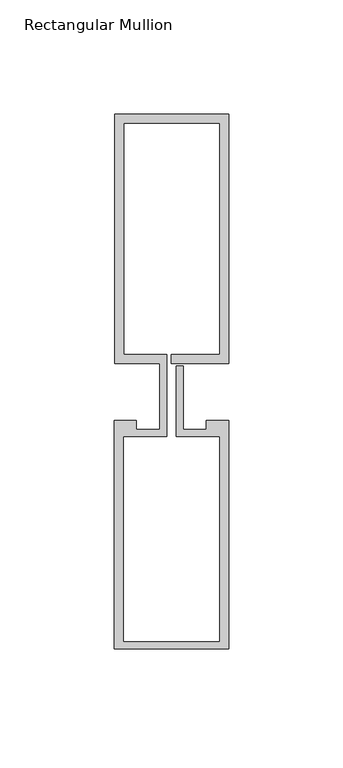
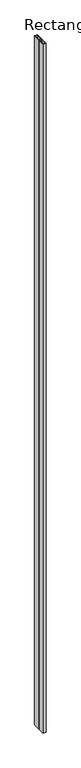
"""IFC4 building model written with IfcOpenShell, lengths in millimetres: member geometry, Rectangular Mullion : Reynaers_CW-50_Mullion-Transom_Horizontal_109.4mm_Facecap-02D."""

from ifc_helpers import new_model, si_unit, frame, origin, place, context, project, spatial, polyline, outline, extrude, source, transform, mapped, element, save


def rectangular_mullion_892d21c0(model_context):
    return source(origin(), model_context, "Body", "SweptSolid", [
        extrude(outline(polyline([(-24.8004059, 121.9), (25.1995941, 121.9), (25.1995941, 12.5), (0.0, 12.5), (0.0, 16.5), (21.1995941, 16.5), (21.1995941, 117.9), (-20.8004059, 117.9), (-20.8004059, 16.5), (-1.9004059, 16.5), (-1.9004059, -19.5), (-20.994845, -19.5), (-20.994845, -109.4191338), (21.1995941, -109.4191338), (21.1995941, -19.5), (2.2995941, -19.5), (2.2995941, 11.5), (5.2995941, 11.5), (5.2995941, -16.5), (15.2996495, -16.5), (15.2996495, -12.5), (25.1995941, -12.5), (25.1995941, -112.5), (-24.994845, -112.5), (-24.994845, -12.5), (-15.2996495, -12.5), (-15.2996495, -16.5), (-4.9004059, -16.5), (-4.9004059, 12.5), (-24.8004059, 12.5), (-24.8004059, 121.9)])), frame((0.0, 0.0, -12000.0), z_axis=(0.0, 0.0, 1.0), x_axis=(1.0, 0.0, 0.0)), (0.0, 0.0, 1.0), 12000.0),
    ])


if __name__ == "__main__":
    model = new_model("IFC4")
    model_context = context("Model", 3, world=origin())
    ifc_project = project(units=[si_unit("LENGTHUNIT", "METRE", prefix="MILLI")], contexts=[model_context])
    site = spatial("IfcSite", under=ifc_project)
    building = spatial("IfcBuilding", under=site)
    placement = place(None, origin())
    rectangular_mullion_shape = rectangular_mullion_892d21c0(model_context)
    element("IfcMember", 1, ObjectType="Rectangular Mullion : Reynaers_CW-50_Mullion-Transom_Horizontal_109.4mm_Facecap-02D", at=placement, inside=building, context=model_context, shape_type="MappedRepresentation", body=[
        mapped(rectangular_mullion_shape, transform((0.0, 0.0, 0.0), x_axis=(1.0, 0.0, 0.0), y_axis=(0.0, 1.0, 0.0), z_axis=(0.0, 0.0, 1.0))),
    ])
    save(model, "model.ifc")
